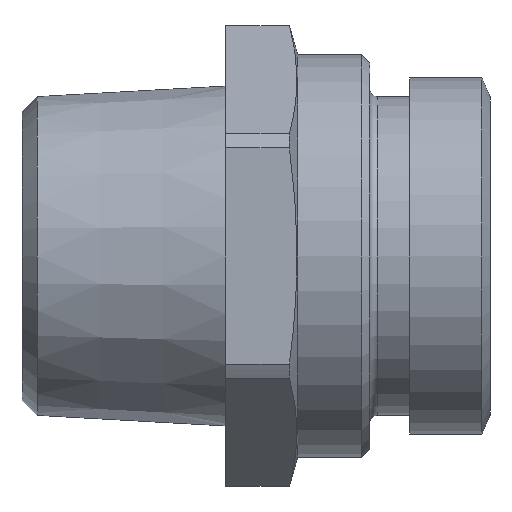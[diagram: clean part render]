
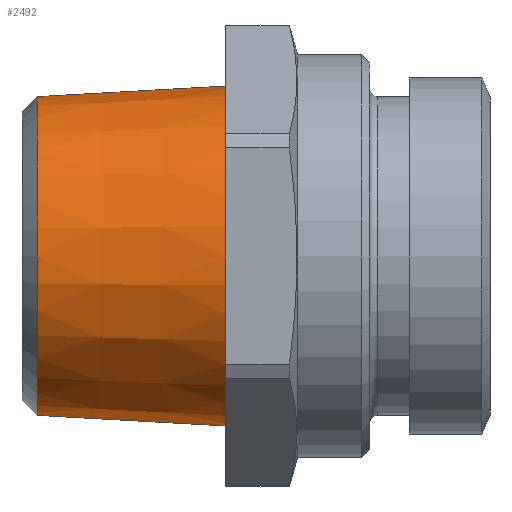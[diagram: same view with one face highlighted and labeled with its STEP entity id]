
A CAD part, left-side view. The second image highlights one B-rep face of the part: STEP entity #2492.
In plain terms, the highlighted conical face has half-angle 3.21 degrees and reference radius 10.274 mm.
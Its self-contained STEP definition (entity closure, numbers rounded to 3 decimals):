
#27 = VERTEX_POINT ( 'NONE', #554 ) ;
#58 = DIRECTION ( 'NONE',  ( 0., 0., -1. ) ) ;
#91 = DIRECTION ( 'NONE',  ( 0., -0.998, -0.056 ) ) ;
#160 = CIRCLE ( 'NONE', #1358, 9.944 ) ;
#194 = DIRECTION ( 'NONE',  ( 0., -1., 0. ) ) ;
#249 = DIRECTION ( 'NONE',  ( 0., -1., 0. ) ) ;
#264 = ORIENTED_EDGE ( 'NONE', *, *, #2153, .T. ) ;
#276 = CARTESIAN_POINT ( 'NONE',  ( 0., 14.428, -10.274 ) ) ;
#284 = DIRECTION ( 'NONE',  ( 0., -1., 0. ) ) ;
#330 = LINE ( 'NONE', #276, #2513 ) ;
#385 = EDGE_CURVE ( 'NONE', #1705, #27, #160, .T. ) ;
#486 = CONICAL_SURFACE ( 'NONE', #1971, 10.274, 0.056 ) ;
#489 = DIRECTION ( 'NONE',  ( 0., 0., -1. ) ) ;
#496 = CIRCLE ( 'NONE', #2263, 10.603 ) ;
#554 = CARTESIAN_POINT ( 'NONE',  ( 0., 20.306, -9.944 ) ) ;
#632 = CARTESIAN_POINT ( 'NONE',  ( 0., 20.306, 9.944 ) ) ;
#686 = ORIENTED_EDGE ( 'NONE', *, *, #764, .F. ) ;
#764 = EDGE_CURVE ( 'NONE', #1705, #1213, #2142, .T. ) ;
#997 = CARTESIAN_POINT ( 'NONE',  ( 0., 8.55, -10.603 ) ) ;
#1069 = FACE_OUTER_BOUND ( 'NONE', #1933, .T. ) ;
#1184 = CARTESIAN_POINT ( 'NONE',  ( 0., 14.428, 10.274 ) ) ;
#1213 = VERTEX_POINT ( 'NONE', #1823 ) ;
#1358 = AXIS2_PLACEMENT_3D ( 'NONE', #1603, #249, #58 ) ;
#1364 = CARTESIAN_POINT ( 'NONE',  ( 0., 8.55, 0. ) ) ;
#1567 = DIRECTION ( 'NONE',  ( 0., 0., -1. ) ) ;
#1587 = EDGE_CURVE ( 'NONE', #1213, #1984, #496, .T. ) ;
#1603 = CARTESIAN_POINT ( 'NONE',  ( 0., 20.306, 0. ) ) ;
#1705 = VERTEX_POINT ( 'NONE', #632 ) ;
#1773 = VECTOR ( 'NONE', #1775, 1000. ) ;
#1775 = DIRECTION ( 'NONE',  ( 0., -0.998, 0.056 ) ) ;
#1823 = CARTESIAN_POINT ( 'NONE',  ( 0., 8.55, 10.603 ) ) ;
#1933 = EDGE_LOOP ( 'NONE', ( #686, #2270, #264, #2171 ) ) ;
#1971 = AXIS2_PLACEMENT_3D ( 'NONE', #2073, #284, #489 ) ;
#1984 = VERTEX_POINT ( 'NONE', #997 ) ;
#2073 = CARTESIAN_POINT ( 'NONE',  ( 0., 14.428, 0. ) ) ;
#2142 = LINE ( 'NONE', #1184, #1773 ) ;
#2153 = EDGE_CURVE ( 'NONE', #27, #1984, #330, .T. ) ;
#2171 = ORIENTED_EDGE ( 'NONE', *, *, #1587, .F. ) ;
#2263 = AXIS2_PLACEMENT_3D ( 'NONE', #1364, #194, #1567 ) ;
#2270 = ORIENTED_EDGE ( 'NONE', *, *, #385, .T. ) ;
#2492 = ADVANCED_FACE ( 'NONE', ( #1069 ), #486, .T. ) ;
#2513 = VECTOR ( 'NONE', #91, 1000. ) ;
